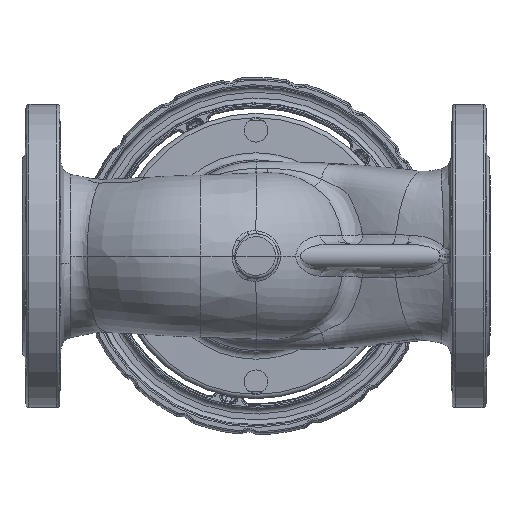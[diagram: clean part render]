
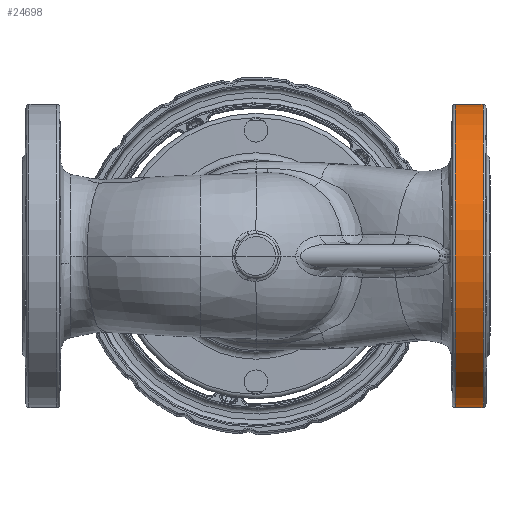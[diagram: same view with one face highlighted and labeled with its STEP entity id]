
A CAD part, front view. The second image highlights one B-rep face of the part: STEP entity #24698.
In plain terms, the highlighted cylindrical face has radius 102.5 mm (diameter 205 mm), a full revolution.
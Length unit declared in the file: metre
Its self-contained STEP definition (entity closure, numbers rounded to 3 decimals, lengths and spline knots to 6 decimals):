
#1834=LINE('',#52660,#2969);
#2969=VECTOR('',#29823,0.1025);
#3944=CYLINDRICAL_SURFACE('',#26653,0.1025);
#5727=FACE_OUTER_BOUND('',#7346,.T.);
#7346=EDGE_LOOP('',(#17781,#17782,#17783,#17784,#17785,#17786));
#8926=CIRCLE('',#26654,0.1025);
#8927=CIRCLE('',#26655,0.1025);
#8928=CIRCLE('',#26656,0.1025);
#8929=CIRCLE('',#26657,0.1025);
#10458=VERTEX_POINT('',#52656);
#10459=VERTEX_POINT('',#52657);
#10460=VERTEX_POINT('',#52659);
#10461=VERTEX_POINT('',#52661);
#13125=EDGE_CURVE('',#10458,#10459,#8926,.T.);
#13126=EDGE_CURVE('',#10459,#10460,#1834,.T.);
#13127=EDGE_CURVE('',#10460,#10461,#8927,.T.);
#13128=EDGE_CURVE('',#10461,#10460,#8928,.T.);
#13129=EDGE_CURVE('',#10459,#10458,#8929,.T.);
#17781=ORIENTED_EDGE('',*,*,#13125,.T.);
#17782=ORIENTED_EDGE('',*,*,#13126,.T.);
#17783=ORIENTED_EDGE('',*,*,#13127,.T.);
#17784=ORIENTED_EDGE('',*,*,#13128,.T.);
#17785=ORIENTED_EDGE('',*,*,#13126,.F.);
#17786=ORIENTED_EDGE('',*,*,#13129,.T.);
#24698=ADVANCED_FACE('',(#5727),#3944,.T.);
#26653=AXIS2_PLACEMENT_3D('',#52655,#29819,#29820);
#26654=AXIS2_PLACEMENT_3D('',#52658,#29821,#29822);
#26655=AXIS2_PLACEMENT_3D('',#52662,#29824,#29825);
#26656=AXIS2_PLACEMENT_3D('',#52663,#29826,#29827);
#26657=AXIS2_PLACEMENT_3D('',#52664,#29828,#29829);
#29819=DIRECTION('center_axis',(1.,0.,0.));
#29820=DIRECTION('ref_axis',(0.,0.,-1.));
#29821=DIRECTION('center_axis',(-1.,0.,0.));
#29822=DIRECTION('ref_axis',(0.,0.,1.));
#29823=DIRECTION('',(-1.,0.,0.));
#29824=DIRECTION('center_axis',(1.,0.,0.));
#29825=DIRECTION('ref_axis',(0.,0.,1.));
#29826=DIRECTION('center_axis',(1.,0.,0.));
#29827=DIRECTION('ref_axis',(0.,0.,1.));
#29828=DIRECTION('center_axis',(-1.,0.,0.));
#29829=DIRECTION('ref_axis',(0.,0.,1.));
#52655=CARTESIAN_POINT('Origin',(0.,0.,0.));
#52656=CARTESIAN_POINT('',(0.153491,0.,-0.1025));
#52657=CARTESIAN_POINT('',(0.153491,0.,0.1025));
#52658=CARTESIAN_POINT('Origin',(0.153491,0.,0.));
#52659=CARTESIAN_POINT('',(0.134709,0.,0.1025));
#52660=CARTESIAN_POINT('',(0.,0.,0.1025));
#52661=CARTESIAN_POINT('',(0.134709,0.,-0.1025));
#52662=CARTESIAN_POINT('Origin',(0.134709,0.,0.));
#52663=CARTESIAN_POINT('Origin',(0.134709,0.,0.));
#52664=CARTESIAN_POINT('Origin',(0.153491,0.,0.));
